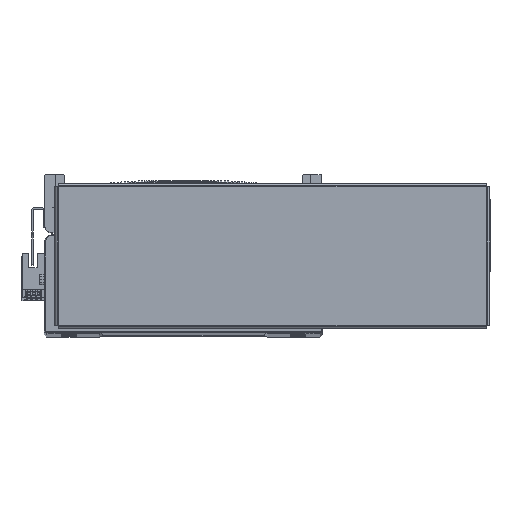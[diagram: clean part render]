
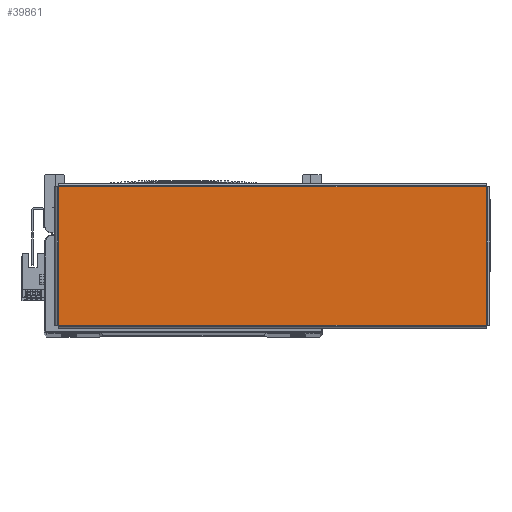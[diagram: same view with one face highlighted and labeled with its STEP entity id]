
A CAD part, top view. The second image highlights one B-rep face of the part: STEP entity #39861.
In plain terms, the highlighted planar face has unit normal (0, 0, 1) as drawn and (0, -1, 0) by its records, which use the part's own axes.
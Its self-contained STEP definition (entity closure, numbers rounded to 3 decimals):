
#2128 = EDGE_CURVE ( 'NONE', #14753, #14766, #15533, .T. ) ;
#2138 = EDGE_CURVE ( 'NONE', #14766, #14743, #15507, .T. ) ;
#2139 = EDGE_CURVE ( 'NONE', #14743, #14788, #15574, .T. ) ;
#2146 = EDGE_CURVE ( 'NONE', #14788, #14753, #15569, .T. ) ;
#6782 = ORIENTED_EDGE ( 'NONE', *, *, #2139, .T. ) ;
#6788 = ORIENTED_EDGE ( 'NONE', *, *, #2146, .T. ) ;
#6805 = ORIENTED_EDGE ( 'NONE', *, *, #2128, .T. ) ;
#6812 = ORIENTED_EDGE ( 'NONE', *, *, #2138, .T. ) ;
#14743 = VERTEX_POINT ( 'NONE', #46601 ) ;
#14753 = VERTEX_POINT ( 'NONE', #46607 ) ;
#14766 = VERTEX_POINT ( 'NONE', #46776 ) ;
#14788 = VERTEX_POINT ( 'NONE', #46748 ) ;
#15052 = EDGE_LOOP ( 'NONE', ( #6805, #6812, #6782, #6788 ) ) ;
#15507 = LINE ( 'NONE', #27035, #15510 ) ;
#15510 = VECTOR ( 'NONE', #26963, 1000. ) ;
#15533 = LINE ( 'NONE', #19332, #15534 ) ;
#15534 = VECTOR ( 'NONE', #19396, 1000. ) ;
#15569 = LINE ( 'NONE', #26984, #15600 ) ;
#15574 = LINE ( 'NONE', #26968, #15594 ) ;
#15594 = VECTOR ( 'NONE', #26975, 1000. ) ;
#15600 = VECTOR ( 'NONE', #26988, 1000. ) ;
#19332 = CARTESIAN_POINT ( 'NONE',  ( 130.863, -1.5, -42.293 ) ) ;
#19396 = DIRECTION ( 'NONE',  ( 0., 0., 1. ) ) ;
#26963 = DIRECTION ( 'NONE',  ( -1., 0., 0. ) ) ;
#26968 = CARTESIAN_POINT ( 'NONE',  ( -130.863, -1.5, 42.293 ) ) ;
#26975 = DIRECTION ( 'NONE',  ( 0., 0., -1. ) ) ;
#26984 = CARTESIAN_POINT ( 'NONE',  ( -130.893, -1.5, -42.263 ) ) ;
#26988 = DIRECTION ( 'NONE',  ( 1., 0., 0. ) ) ;
#27035 = CARTESIAN_POINT ( 'NONE',  ( 130.893, -1.5, 42.263 ) ) ;
#39861 = ADVANCED_FACE ( 'NONE', ( #64055 ), #47522, .F. ) ;
#46601 = CARTESIAN_POINT ( 'NONE',  ( -130.863, -1.5, 42.263 ) ) ;
#46607 = CARTESIAN_POINT ( 'NONE',  ( 130.863, -1.5, -42.263 ) ) ;
#46748 = CARTESIAN_POINT ( 'NONE',  ( -130.863, -1.5, -42.263 ) ) ;
#46776 = CARTESIAN_POINT ( 'NONE',  ( 130.863, -1.5, 42.263 ) ) ;
#47507 = DIRECTION ( 'NONE',  ( 0., 0., 1. ) ) ;
#47515 = CARTESIAN_POINT ( 'NONE',  ( 0., -1.5, 0. ) ) ;
#47522 = PLANE ( 'NONE',  #61111 ) ;
#47523 = DIRECTION ( 'NONE',  ( 0., 1., 0. ) ) ;
#61111 = AXIS2_PLACEMENT_3D ( 'NONE', #47515, #47523, #47507 ) ;
#64055 = FACE_OUTER_BOUND ( 'NONE', #15052, .T. ) ;
